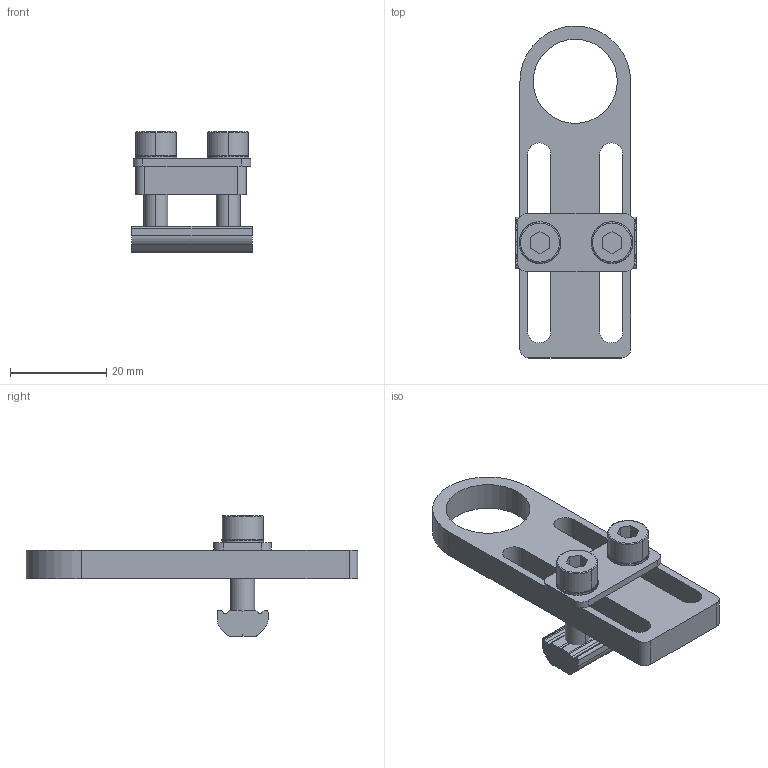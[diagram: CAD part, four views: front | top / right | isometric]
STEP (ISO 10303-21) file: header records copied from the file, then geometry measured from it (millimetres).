
FILE_DESCRIPTION (( 'STEP AP214' ), '1' );
FILE_NAME ('SMBE5-M2040.STEP', '2019-11-06T01:43:05', ( '微软用户' ), ( '微软中国' ), 'SwSTEP 2.0', 'SolidWorks 2016', '' );
FILE_SCHEMA (( 'AUTOMOTIVE_DESIGN' ));
Length unit declared in the file: millimetre
Products named in the file (1): SMBE5-M2040
Bounding box: 25 x 69.08 x 25 mm (x, y, z)
Volume: 8160.4 mm3; surface area: 7247.1 mm2
Topology: 7 solids, 7 shells, 510 faces, 1476 edges, 976 vertices
Faces by surface type: plane 447, cylinder 55, torus 4, cone 4
Entity records: 22716 total; most frequent: CARTESIAN_POINT 3155, ORIENTED_EDGE 2952, DIRECTION 2948, EDGE_CURVE 1476, AXIS2_PLACEMENT_3D 993, VERTEX_POINT 976, LINE 962, VECTOR 962
